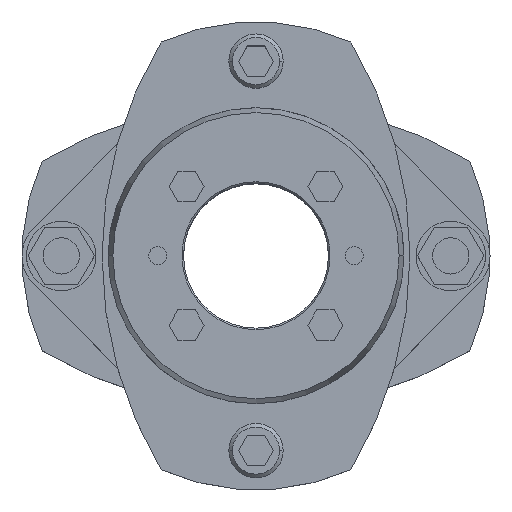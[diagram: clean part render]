
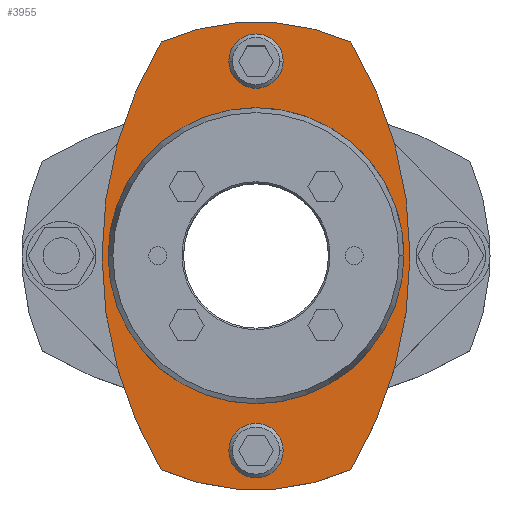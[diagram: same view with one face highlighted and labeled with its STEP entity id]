
A CAD part, top view. The second image highlights one B-rep face of the part: STEP entity #3955.
In plain terms, the highlighted planar face has unit normal (0, 0, 1).
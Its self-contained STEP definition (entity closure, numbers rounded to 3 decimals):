
#1387=CARTESIAN_POINT('',(-51.,0.,22.0));
#1388=VERTEX_POINT('',#1387);
#1404=CARTESIAN_POINT('',(-31.43,-70.841,22.0));
#1405=VERTEX_POINT('',#1404);
#1412=CARTESIAN_POINT('',(87.,0.,22.0));
#1413=DIRECTION('',(0.0,0.0,-1.0));
#1414=DIRECTION('',(-1.0,0.0,0.0));
#1415=AXIS2_PLACEMENT_3D('',#1412,#1413,#1414);
#1416=CIRCLE('',#1415,138.);
#1417=EDGE_CURVE('',#1405,#1388,#1416,.T.);
#1427=CARTESIAN_POINT('',(51.,0.,22.0));
#1428=VERTEX_POINT('',#1427);
#1437=CARTESIAN_POINT('',(31.43,-70.841,22.0));
#1438=VERTEX_POINT('',#1437);
#1439=CARTESIAN_POINT('',(-87.,0.,22.0));
#1440=DIRECTION('',(0.0,0.0,-1.0));
#1441=DIRECTION('',(-1.0,0.0,0.0));
#1442=AXIS2_PLACEMENT_3D('',#1439,#1440,#1441);
#1443=CIRCLE('',#1442,138.);
#1444=EDGE_CURVE('',#1428,#1438,#1443,.T.);
#1693=CARTESIAN_POINT('',(-38.5,0.,22.0));
#1694=VERTEX_POINT('',#1693);
#1744=CARTESIAN_POINT('',(38.5,0.,22.0));
#1745=VERTEX_POINT('',#1744);
#1752=CARTESIAN_POINT('',(0.,0.,22.0));
#1753=DIRECTION('',(0.0,0.0,-1.0));
#1754=DIRECTION('',(-1.0,0.0,0.0));
#1755=AXIS2_PLACEMENT_3D('',#1752,#1753,#1754);
#1756=CIRCLE('',#1755,38.5);
#1757=EDGE_CURVE('',#1694,#1745,#1756,.T.);
#1853=CARTESIAN_POINT('',(-9.,-64.5,22.0));
#1854=VERTEX_POINT('',#1853);
#1870=CARTESIAN_POINT('',(9.,-64.5,22.0));
#1871=VERTEX_POINT('',#1870);
#1878=CARTESIAN_POINT('',(0.,-64.5,22.0));
#1879=DIRECTION('',(0.0,0.0,-1.0));
#1880=DIRECTION('',(-1.0,0.0,0.0));
#1881=AXIS2_PLACEMENT_3D('',#1878,#1879,#1880);
#1882=CIRCLE('',#1881,9.0);
#1883=EDGE_CURVE('',#1854,#1871,#1882,.T.);
#1927=CARTESIAN_POINT('',(-9.,64.5,22.0));
#1928=VERTEX_POINT('',#1927);
#1944=CARTESIAN_POINT('',(9.,64.5,22.0));
#1945=VERTEX_POINT('',#1944);
#1952=CARTESIAN_POINT('',(0.,64.5,22.0));
#1953=DIRECTION('',(0.0,0.0,-1.0));
#1954=DIRECTION('',(-1.0,0.0,0.0));
#1955=AXIS2_PLACEMENT_3D('',#1952,#1953,#1954);
#1956=CIRCLE('',#1955,9.0);
#1957=EDGE_CURVE('',#1928,#1945,#1956,.T.);
#2496=CARTESIAN_POINT('',(0.,64.5,22.0));
#2497=DIRECTION('',(0.0,0.0,-1.0));
#2498=DIRECTION('',(-1.0,0.0,0.0));
#2499=AXIS2_PLACEMENT_3D('',#2496,#2497,#2498);
#2500=CIRCLE('',#2499,9.0);
#2501=EDGE_CURVE('',#1945,#1928,#2500,.T.);
#2556=CARTESIAN_POINT('',(0.,-64.5,22.0));
#2557=DIRECTION('',(0.0,0.0,-1.0));
#2558=DIRECTION('',(-1.0,0.0,0.0));
#2559=AXIS2_PLACEMENT_3D('',#2556,#2557,#2558);
#2560=CIRCLE('',#2559,9.0);
#2561=EDGE_CURVE('',#1871,#1854,#2560,.T.);
#3628=CARTESIAN_POINT('',(0.,0.,22.0));
#3629=DIRECTION('',(0.0,0.0,-1.0));
#3630=DIRECTION('',(-1.0,0.0,0.0));
#3631=AXIS2_PLACEMENT_3D('',#3628,#3629,#3630);
#3632=CIRCLE('',#3631,38.5);
#3633=EDGE_CURVE('',#1745,#1694,#3632,.T.);
#3849=CARTESIAN_POINT('',(-31.43,70.841,22.0));
#3850=VERTEX_POINT('',#3849);
#3851=CARTESIAN_POINT('',(31.43,70.841,22.0));
#3852=VERTEX_POINT('',#3851);
#3853=CARTESIAN_POINT('',(0.0,0.,22.0));
#3854=DIRECTION('',(0.0,0.0,-1.0));
#3855=DIRECTION('',(-1.0,0.0,0.0));
#3856=AXIS2_PLACEMENT_3D('',#3853,#3854,#3855);
#3857=CIRCLE('',#3856,77.5);
#3858=EDGE_CURVE('',#3850,#3852,#3857,.T.);
#3884=CARTESIAN_POINT('',(-87.,0.,22.0));
#3885=DIRECTION('',(0.0,0.0,-1.0));
#3886=DIRECTION('',(-1.0,0.0,0.0));
#3887=AXIS2_PLACEMENT_3D('',#3884,#3885,#3886);
#3888=CIRCLE('',#3887,138.);
#3889=EDGE_CURVE('',#3852,#1428,#3888,.T.);
#3899=CARTESIAN_POINT('',(0.0,0.,22.0));
#3900=DIRECTION('',(0.0,0.0,-1.0));
#3901=DIRECTION('',(-1.0,0.0,0.0));
#3902=AXIS2_PLACEMENT_3D('',#3899,#3900,#3901);
#3903=CIRCLE('',#3902,77.5);
#3904=EDGE_CURVE('',#1438,#1405,#3903,.T.);
#3918=CARTESIAN_POINT('',(87.,0.,22.0));
#3919=DIRECTION('',(0.0,0.0,-1.0));
#3920=DIRECTION('',(-1.0,0.0,0.0));
#3921=AXIS2_PLACEMENT_3D('',#3918,#3919,#3920);
#3922=CIRCLE('',#3921,138.);
#3923=EDGE_CURVE('',#1388,#3850,#3922,.T.);
#3930=CARTESIAN_POINT('',(0.,0.,22.0));
#3931=DIRECTION('',(0.0,0.0,1.0));
#3932=DIRECTION('',(-1.0,0.0,0.0));
#3933=AXIS2_PLACEMENT_3D('',#3930,#3931,#3932);
#3934=PLANE('',#3933);
#3935=ORIENTED_EDGE('',*,*,#3858,.F.);
#3936=ORIENTED_EDGE('',*,*,#3923,.F.);
#3937=ORIENTED_EDGE('',*,*,#1417,.F.);
#3938=ORIENTED_EDGE('',*,*,#3904,.F.);
#3939=ORIENTED_EDGE('',*,*,#1444,.F.);
#3940=ORIENTED_EDGE('',*,*,#3889,.F.);
#3941=EDGE_LOOP('',(#3935,#3936,#3937,#3938,#3939,#3940));
#3942=FACE_OUTER_BOUND('',#3941,.T.);
#3943=ORIENTED_EDGE('',*,*,#1957,.T.);
#3944=ORIENTED_EDGE('',*,*,#2501,.T.);
#3945=EDGE_LOOP('',(#3943,#3944));
#3946=FACE_BOUND('',#3945,.T.);
#3947=ORIENTED_EDGE('',*,*,#1883,.T.);
#3948=ORIENTED_EDGE('',*,*,#2561,.T.);
#3949=EDGE_LOOP('',(#3947,#3948));
#3950=FACE_BOUND('',#3949,.T.);
#3951=ORIENTED_EDGE('',*,*,#1757,.T.);
#3952=ORIENTED_EDGE('',*,*,#3633,.T.);
#3953=EDGE_LOOP('',(#3951,#3952));
#3954=FACE_BOUND('',#3953,.T.);
#3955=ADVANCED_FACE('',(#3942,#3946,#3950,#3954),#3934,.T.);
